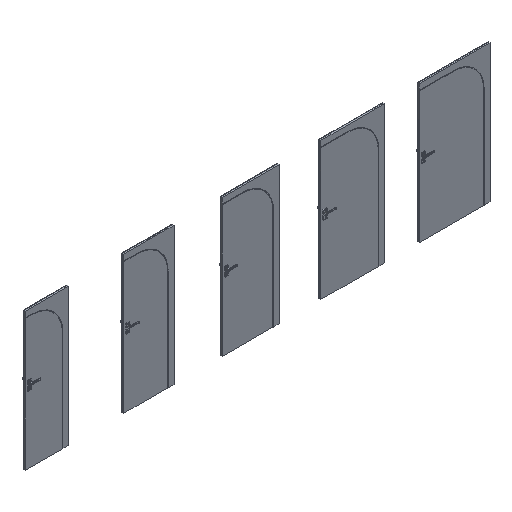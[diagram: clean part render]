
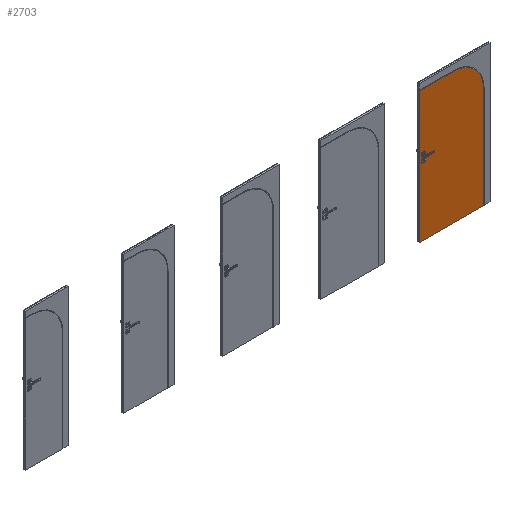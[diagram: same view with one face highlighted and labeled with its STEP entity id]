
A CAD part, isometric view. The second image highlights one B-rep face of the part: STEP entity #2703.
In plain terms, the highlighted planar face has unit normal (0, -1, 0).
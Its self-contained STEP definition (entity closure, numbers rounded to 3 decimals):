
#1655=FACE_OUTER_BOUND('',#5201,.T.);
#2703=ADVANCED_FACE('',(#1655),#3525,.F.);
#3525=PLANE('',#18139);
#4143=CIRCLE('',#18138,446.85);
#5201=EDGE_LOOP('',(#7997,#7998,#7999,#8000,#8001));
#7997=ORIENTED_EDGE('',*,*,#13319,.F.);
#7998=ORIENTED_EDGE('',*,*,#13320,.T.);
#7999=ORIENTED_EDGE('',*,*,#13321,.T.);
#8000=ORIENTED_EDGE('',*,*,#13322,.T.);
#8001=ORIENTED_EDGE('',*,*,#13323,.F.);
#11439=VERTEX_POINT('',#28250);
#11440=VERTEX_POINT('',#28251);
#11441=VERTEX_POINT('',#28253);
#11442=VERTEX_POINT('',#28255);
#11443=VERTEX_POINT('',#28257);
#13319=EDGE_CURVE('',#11439,#11440,#4143,.T.);
#13320=EDGE_CURVE('',#11439,#11441,#15317,.T.);
#13321=EDGE_CURVE('',#11441,#11442,#15318,.T.);
#13322=EDGE_CURVE('',#11442,#11443,#15319,.T.);
#13323=EDGE_CURVE('',#11440,#11443,#15320,.T.);
#15317=LINE('',#28252,#16637);
#15318=LINE('',#28254,#16638);
#15319=LINE('',#28256,#16639);
#15320=LINE('',#28258,#16640);
#16637=VECTOR('',#21284,1.);
#16638=VECTOR('',#21285,1.);
#16639=VECTOR('',#21286,1.);
#16640=VECTOR('',#21287,1.);
#18138=AXIS2_PLACEMENT_3D('',#28249,#21282,#21283);
#18139=AXIS2_PLACEMENT_3D('',#28259,#21288,#21289);
#21282=DIRECTION('',(0.,1.,0.));
#21283=DIRECTION('',(0.,0.,1.));
#21284=DIRECTION('',(-1.,0.,0.));
#21285=DIRECTION('',(0.,0.,-1.));
#21286=DIRECTION('',(1.,0.,0.));
#21287=DIRECTION('',(0.,0.,-1.));
#21288=DIRECTION('',(0.,1.,0.));
#21289=DIRECTION('',(-1.,0.,0.));
#28249=CARTESIAN_POINT('',(5978.5,-39.3,1486.));
#28250=CARTESIAN_POINT('',(5978.5,-39.3,1932.85));
#28251=CARTESIAN_POINT('',(6425.35,-39.3,1486.));
#28252=CARTESIAN_POINT('',(5978.5,-39.3,1932.85));
#28253=CARTESIAN_POINT('',(5480.5,-39.3,1932.85));
#28254=CARTESIAN_POINT('',(5480.5,-39.3,2027.));
#28255=CARTESIAN_POINT('',(5480.5,-39.3,0.));
#28256=CARTESIAN_POINT('',(5680.5,-39.3,0.));
#28257=CARTESIAN_POINT('',(6425.35,-39.3,0.));
#28258=CARTESIAN_POINT('',(6425.35,-39.3,1486.));
#28259=CARTESIAN_POINT('',(5680.5,-39.3,2027.));
